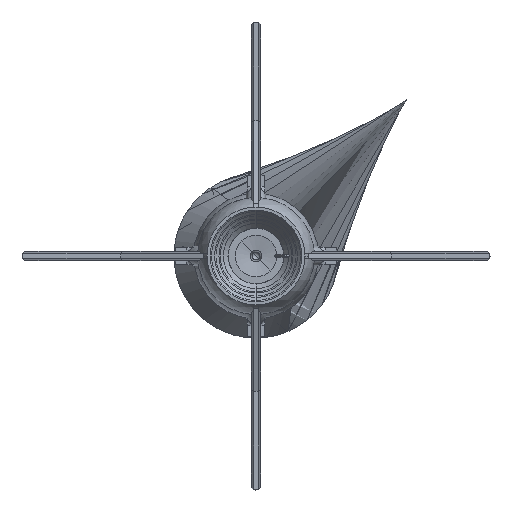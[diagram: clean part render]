
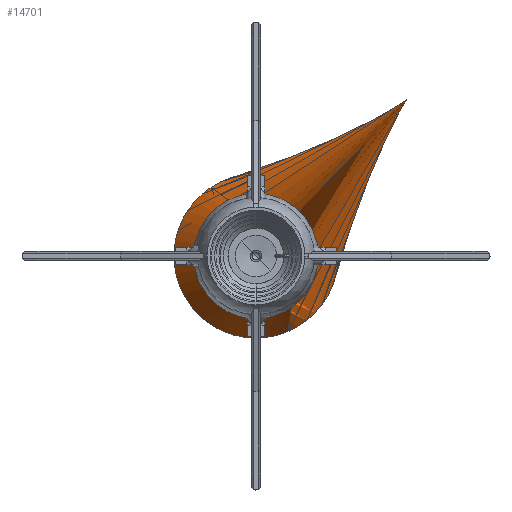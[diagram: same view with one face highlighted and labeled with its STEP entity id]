
A CAD part, front view. The second image highlights one B-rep face of the part: STEP entity #14701.
In plain terms, the highlighted toroidal (fillet/blend) face has major radius 28.356 mm and minor radius 42.184 mm.
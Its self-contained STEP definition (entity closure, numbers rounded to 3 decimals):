
#48 = EDGE_LOOP ( 'NONE', ( #4082, #12257 ) ) ;
#214 = DIRECTION ( 'NONE',  ( 0., -1., 0. ) ) ;
#311 = CARTESIAN_POINT ( 'NONE',  ( 13.514, 274.939, 0.5 ) ) ;
#1383 = B_SPLINE_CURVE_WITH_KNOTS ( 'NONE', 3,
 ( #10903, #10850, #12306, #3855 ),
 .UNSPECIFIED., .F., .F.,
 ( 4, 4 ),
 ( 0.008, 0.01 ),
 .UNSPECIFIED. ) ;
#3297 = CARTESIAN_POINT ( 'NONE',  ( 13.683, 276.628, 0.5 ) ) ;
#3855 = CARTESIAN_POINT ( 'NONE',  ( 13.683, 276.628, 0.5 ) ) ;
#4082 = ORIENTED_EDGE ( 'NONE', *, *, #13555, .F. ) ;
#4475 = DIRECTION ( 'NONE',  ( 0., 0., -1. ) ) ;
#5238 = TOROIDAL_SURFACE ( 'NONE', #9217, -28.356, 42.184 ) ;
#5251 = CARTESIAN_POINT ( 'NONE',  ( 13.514, 274.939, 0.5 ) ) ;
#8119 = CARTESIAN_POINT ( 'NONE',  ( 13.638, 276.064, 0.5 ) ) ;
#9217 = AXIS2_PLACEMENT_3D ( 'NONE', #11521, #214, #4475 ) ;
#10850 = CARTESIAN_POINT ( 'NONE',  ( 13.581, 275.5, 0.5 ) ) ;
#10903 = CARTESIAN_POINT ( 'NONE',  ( 13.514, 274.939, 0.5 ) ) ;
#11521 = CARTESIAN_POINT ( 'NONE',  ( 0., 280., 0. ) ) ;
#11923 = VERTEX_POINT ( 'NONE', #311 ) ;
#12170 = EDGE_CURVE ( 'NONE', #11923, #17008, #1383, .T. ) ;
#12257 = ORIENTED_EDGE ( 'NONE', *, *, #12170, .T. ) ;
#12306 = CARTESIAN_POINT ( 'NONE',  ( 13.638, 276.063, 0.5 ) ) ;
#13555 = EDGE_CURVE ( 'NONE', #11923, #17008, #17672, .T. ) ;
#14701 = ADVANCED_FACE ( 'NONE', ( #16556 ), #5238, .F. ) ;
#16556 = FACE_OUTER_BOUND ( 'NONE', #48, .T. ) ;
#16599 = CARTESIAN_POINT ( 'NONE',  ( 13.581, 275.499, 0.5 ) ) ;
#17008 = VERTEX_POINT ( 'NONE', #3297 ) ;
#17672 = B_SPLINE_CURVE_WITH_KNOTS ( 'NONE', 3,
 ( #5251, #16599, #8119, #18048 ),
 .UNSPECIFIED., .F., .F.,
 ( 4, 4 ),
 ( 0., 1. ),
 .UNSPECIFIED. ) ;
#18048 = CARTESIAN_POINT ( 'NONE',  ( 13.683, 276.628, 0.5 ) ) ;
